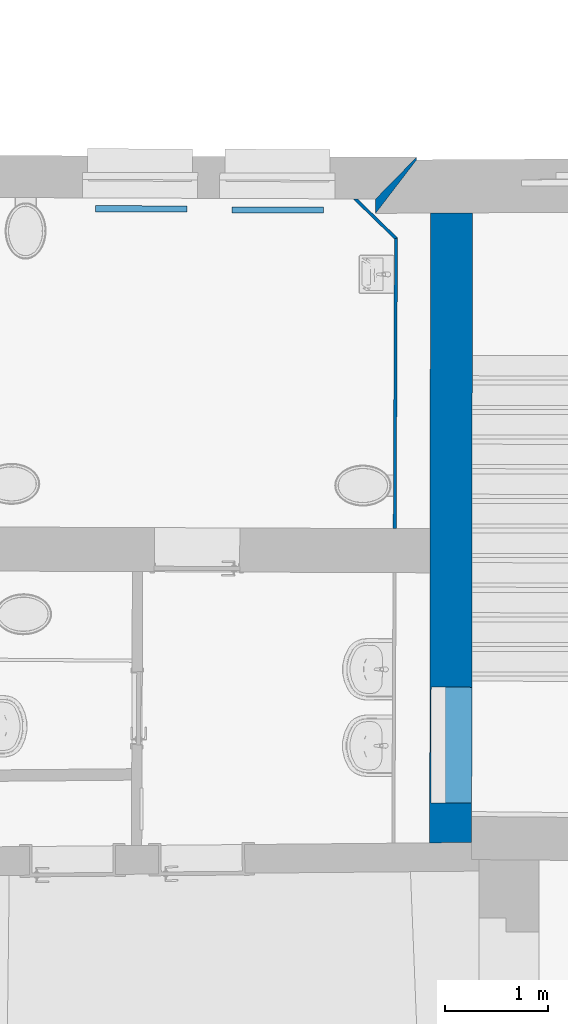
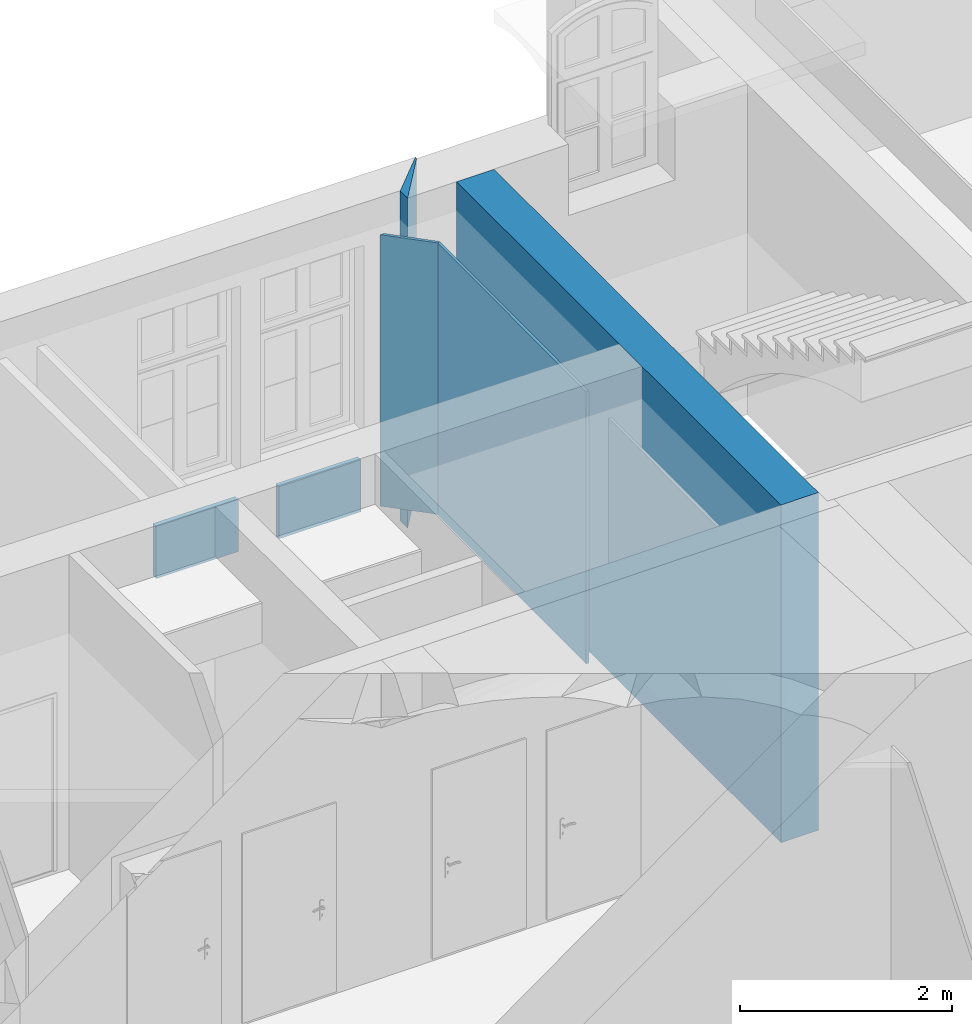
# One storey, part 43 of 158: 6 walls, 1 opening.
"""IFC2X3 building model written with IfcOpenShell, lengths in metres."""

from ifc_helpers import new_model, entity, si_unit, converted_unit, derived_unit, money_unit, direction, frame, origin_with_axes, place, context, subcontext, project, spatial, polyline, outline, extrude, material, layer, layer_set, layer_usage, type_object, element, save


model = new_model("IFC2X3")

# Units and contexts
model_context = context("Model", 3, precision=1e-05, world=origin_with_axes(), true_north=direction((0.0, 1.0)))
body_context = subcontext(model_context, "Body", "Model", "MODEL_VIEW")
ifc_project = project(units=[si_unit("LENGTHUNIT", "METRE"), si_unit("AREAUNIT", "SQUARE_METRE"), si_unit("VOLUMEUNIT", "CUBIC_METRE"), converted_unit("PLANEANGLEUNIT", "DEGREE", entity("IfcPlaneAngleMeasure", 0.0174532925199), si_unit("PLANEANGLEUNIT", "RADIAN"), dimensions=[0, 0, 0, 0, 0, 0, 0]), money_unit("EUR"), converted_unit("TIMEUNIT", "Year", entity("IfcTimeMeasure", 31556926.0), si_unit("TIMEUNIT", "SECOND"), dimensions=[0, 0, 1, 0, 0, 0, 0]), si_unit("MASSUNIT", "GRAM", prefix="KILO"), si_unit("THERMODYNAMICTEMPERATUREUNIT", "DEGREE_CELSIUS"), si_unit("LUMINOUSINTENSITYUNIT", "LUMEN"), si_unit("ENERGYUNIT", "JOULE", prefix="MEGA"), derived_unit("THERMALCONDUCTANCEUNIT", [(si_unit("POWERUNIT", "WATT"), 1), (si_unit("LENGTHUNIT", "METRE"), -1), (si_unit("THERMODYNAMICTEMPERATUREUNIT", "KELVIN"), -1)]), derived_unit("SPECIFICHEATCAPACITYUNIT", [(si_unit("ENERGYUNIT", "JOULE"), 1), (si_unit("MASSUNIT", "GRAM", prefix="KILO"), -1), (si_unit("THERMODYNAMICTEMPERATUREUNIT", "KELVIN"), -1)]), derived_unit("MASSDENSITYUNIT", [(si_unit("MASSUNIT", "GRAM", prefix="KILO"), 1), (si_unit("VOLUMEUNIT", "CUBIC_METRE"), -1)])], contexts=[model_context])

# Site, building, storey
site_placement = place(None, origin_with_axes())
site = spatial("IfcSite", under=ifc_project, at=site_placement, Name="Gelände", CompositionType="ELEMENT")
building_placement = place(site_placement, origin_with_axes())
building = spatial("IfcBuilding", under=site, at=building_placement, Name="Gebäude", CompositionType="ELEMENT")
storey_placement = place(building_placement, origin_with_axes())
storey = spatial("IfcBuildingStorey", under=building, at=storey_placement, Name="ERDGESCHOSS", CompositionType="ELEMENT", Elevation=0.0)

# Walls
ifc_material_1 = material(Name="05_ALLGEMEIN - TRAGENDE BAUTEILE")
ifc_layer_1 = layer(ifc_material_1, 0.4, ventilated="UNKNOWN")
ifc_layer_set_1 = layer_set([ifc_layer_1], Name="05_ALLGEMEIN - TRAGENDE BAUTEILE 0.4")
ifc_layer_usage_1 = layer_usage(ifc_layer_set_1, "AXIS2", "NEGATIVE", 0.4)
wall_type_1 = type_object("IfcWallType", Name="05_ALLGEMEIN - TRAGENDE BAUTEILE 400", PredefinedType="ELEMENTEDWALL")
wall_1_placement = place(storey_placement, frame((21.3567077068, 26.1686068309, -0.210000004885), z_axis=(0.0, 0.0, 1.0), x_axis=(0.0, 1.0, 0.0)))
element("IfcWallStandardCase", 1, at=wall_1_placement, inside=storey, type_object=wall_type_1, material=ifc_layer_usage_1, Name="Wand-032", ObjectType="ELEMENTEDWALL", context=body_context, shape_type="SweptSolid", body=[
    extrude(outline(polyline([(0.0, 0.0), (0.0262708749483, 0.0), (-0.382160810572, 0.4), (-0.522181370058, 0.4), (0.0, 0.0)])), origin_with_axes(), (0.0, 0.0, 1.0), 3.81000000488),
])
ifc_material_2 = material(Name="43_Gipskarton")
ifc_layer_2 = layer(ifc_material_2, 0.03, ventilated="UNKNOWN")
ifc_layer_set_2 = layer_set([ifc_layer_2], Name="43_Gipskarton 0.03")
ifc_layer_usage_2 = layer_usage(ifc_layer_set_2, "AXIS2", "NEGATIVE", 0.0)
wall_type_2 = type_object("IfcWallType", Name="43_Gipskarton 30", PredefinedType="ELEMENTEDWALL")
wall_2_placement = place(storey_placement, frame((21.1265033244, 22.1416386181, 0.032576), z_axis=(0.0, 0.0, 1.0), x_axis=(0.00436244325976, 0.999990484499, 0.0)))
element("IfcWallStandardCase", 2, at=wall_2_placement, inside=storey, type_object=wall_type_2, material=ifc_layer_usage_2, Name="Wand-036", ObjectType="ELEMENTEDWALL", context=body_context, shape_type="SweptSolid", body=[
    extrude(outline(polyline([(0.430011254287, -0.03), (3.26680047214, -0.03), (3.25403608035, 0.0), (0.430000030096, 0.0), (0.430011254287, -0.03)])), origin_with_axes(), (0.0, 0.0, 1.0), 3.137424),
])
ifc_layer_usage_3 = layer_usage(ifc_layer_set_2, "AXIS2", "NEGATIVE", 0.03)
wall_3_placement = place(storey_placement, frame((20.3132390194, 26.1989771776, 0.04), z_axis=(0.0, 0.0, 1.0), x_axis=(0.717489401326, -0.696569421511, 0.0)))
element("IfcWallStandardCase", 3, at=wall_3_placement, inside=storey, type_object=wall_type_2, material=ifc_layer_usage_3, Name="Wand-040", ObjectType="ELEMENTEDWALL", context=body_context, shape_type="SweptSolid", body=[
    extrude(outline(polyline([(0.590995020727, 0.0), (1.15327118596, 0.0), (1.16603557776, 0.03), (0.622139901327, 0.03), (0.590995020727, 0.0)])), origin_with_axes(), (0.0, 0.0, 1.0), 3.13),
])

# Wall, opening
ifc_layer_3 = layer(ifc_material_1, 0.41, ventilated="UNKNOWN")
ifc_layer_set_3 = layer_set([ifc_layer_3], Name="05_ALLGEMEIN - TRAGENDE BAUTEILE 0.41")
ifc_layer_usage_4 = layer_usage(ifc_layer_set_3, "AXIS2", "NEGATIVE", 0.41)
wall_type_3 = type_object("IfcWallType", Name="05_ALLGEMEIN - TRAGENDE BAUTEILE 410", PredefinedType="ELEMENTEDWALL")
wall_4_placement = place(storey_placement, frame((21.893528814, 19.2296664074, -0.295), z_axis=(0.0, 0.0, 1.0), x_axis=(0.00130389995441, 0.999999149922, 0.0)))
wall_4 = element("IfcWallStandardCase", 4, at=wall_4_placement, inside=storey, type_object=wall_type_3, material=ifc_layer_usage_4, Name="Wand-039", ObjectType="ELEMENTEDWALL", context=body_context, shape_type="SweptSolid", body=[
    extrude(outline(polyline([(0.280015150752, 0.0), (6.4219009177, 0.0), (6.41913826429, 0.41), (0.27574991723, 0.41), (0.280015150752, 0.0)])), origin_with_axes(), (0.0, 0.0, 1.0), 3.895),
])
opening_placement = place(wall_4_placement, frame((1.22963276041, 0.0, 0.24), z_axis=(0.0, 0.0, 1.0), x_axis=(1.0, 0.0, 0.0)))
element("IfcOpeningElement", 5, at=opening_placement, cuts=wall_4, Name="Fenster-016", ObjectType="Recess", context=body_context, shape_type="SweptSolid", body=[
    extrude(outline(polyline([(-0.564529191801, 0.0), (-0.564529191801, -2.69000000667), (-0.384666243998, -2.76657827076), (-0.19485325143, -2.813332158), (-2.0830352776e-08, -2.82905233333), (0.194853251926, -2.813332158), (0.384666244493, -2.76657827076), (0.564529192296, -2.69000000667), (0.564530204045, -2.68990001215), (0.564529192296, 0.0), (-0.564529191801, 0.0)])), frame((0.0, 0.396171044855, 0.0), z_axis=(0.0, 1.0, 0.0), x_axis=(1.0, 0.0, 0.0)), (0.0, 0.0, -1.0), 0.806171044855),
])

# Walls
ifc_material_3 = material(Name="01_ALLGEMEIN - BAUTEIL")
ifc_layer_4 = layer(ifc_material_3, 0.06, ventilated="UNKNOWN")
ifc_layer_set_4 = layer_set([ifc_layer_4], Name="01_ALLGEMEIN - BAUTEIL 0.06")
ifc_layer_usage_5 = layer_usage(ifc_layer_set_4, "AXIS2", "NEGATIVE", 0.06)
wall_type_4 = type_object("IfcWallType", Name="01_ALLGEMEIN - BAUTEIL 60", PredefinedType="ELEMENTEDWALL")
wall_5_placement = place(storey_placement, frame((19.5554394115, 25.6495296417, 0.160348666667), z_axis=(0.0, 0.0, 1.0), x_axis=(0.999997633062, -0.00217574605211, 0.0)))
element("IfcWallStandardCase", 6, at=wall_5_placement, inside=storey, type_object=wall_type_4, material=ifc_layer_usage_5, Name="Wand-037", ObjectType="ELEMENTEDWALL", context=body_context, shape_type="SweptSolid", body=[
    extrude(outline(polyline([(0.0, 0.0), (0.894487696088, 0.0), (0.894487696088, 0.06), (0.0, 0.06), (0.0, 0.0)])), origin_with_axes(), (0.0, 0.0, 1.0), 0.599979),
])
ifc_layer_usage_6 = layer_usage(ifc_layer_set_4, "AXIS2", "NEGATIVE", 0.0)
wall_6_placement = place(storey_placement, frame((19.119313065, 25.6596618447, 0.160348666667), z_axis=(0.0, 0.0, 1.0), x_axis=(-0.999997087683, 0.00241342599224, 0.0)))
element("IfcWallStandardCase", 7, at=wall_6_placement, inside=storey, type_object=wall_type_4, material=ifc_layer_usage_6, Name="Wand-037", ObjectType="ELEMENTEDWALL", context=body_context, shape_type="SweptSolid", body=[
    extrude(outline(polyline([(0.0, -0.06), (0.895617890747, -0.06), (0.895617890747, 0.0), (0.0, 0.0), (0.0, -0.06)])), origin_with_axes(), (0.0, 0.0, 1.0), 0.599979),
])

save(model, "model.ifc")
